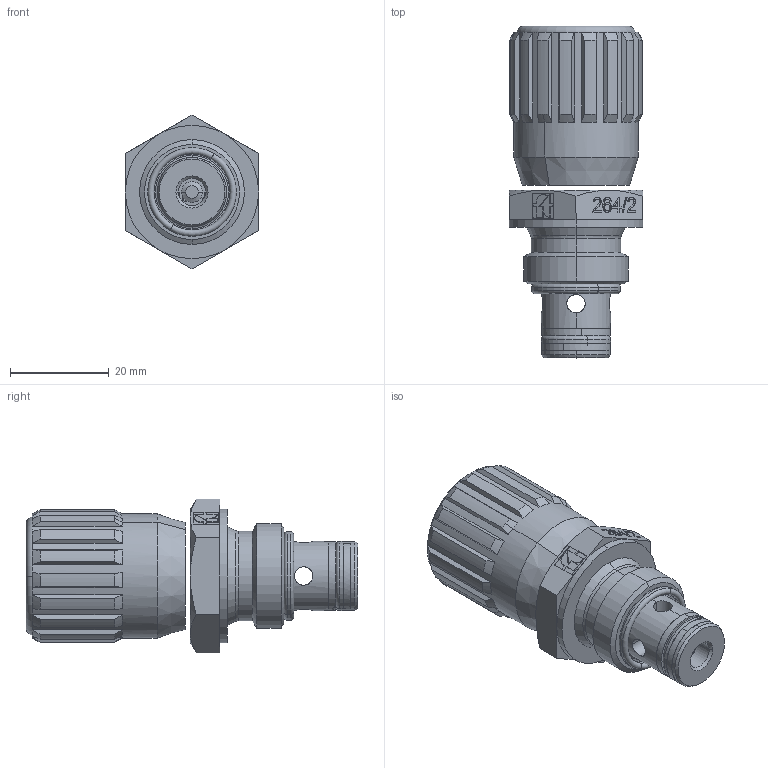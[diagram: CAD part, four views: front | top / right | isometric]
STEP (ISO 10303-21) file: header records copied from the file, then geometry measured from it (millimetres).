
FILE_DESCRIPTION (( 'STEP AP214' ), '1' );
FILE_NAME ('Assieme 264-2-14manopola.STEP', '2014-11-06T21:08:04', ( '' ), ( '' ), 'SwSTEP 2.0', 'SolidWorks 2014', '' );
FILE_SCHEMA (( 'AUTOMOTIVE_DESIGN' ));
Length unit declared in the file: millimetre
Products named in the file (1): Assieme 264-2-14manopola
Bounding box: 27 x 67.3 x 31.18 mm (x, y, z)
Surface area: 7521.8 mm2 (no closed solid volume)
Topology: 0 solids, 10 shells, 434 faces, 1266 edges, 820 vertices
Faces by surface type: plane 241, cylinder 76, cone 64, bspline 39, torus 14
Entity records: 21772 total; most frequent: CARTESIAN_POINT 5978, ORIENTED_EDGE 2256, DIRECTION 2112, EDGE_CURVE 1266, VERTEX_POINT 820, VECTOR 800, LINE 800, AXIS2_PLACEMENT_3D 656
